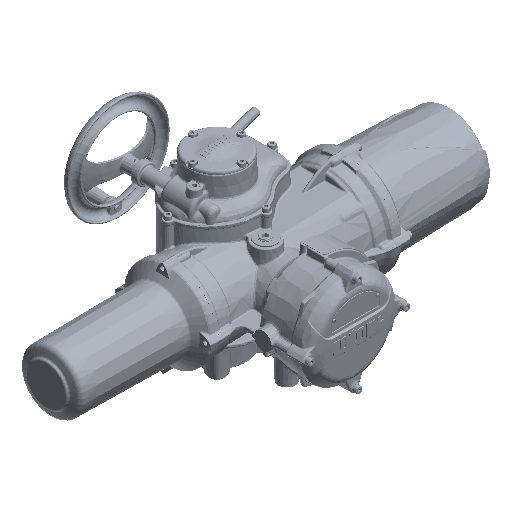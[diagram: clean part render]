
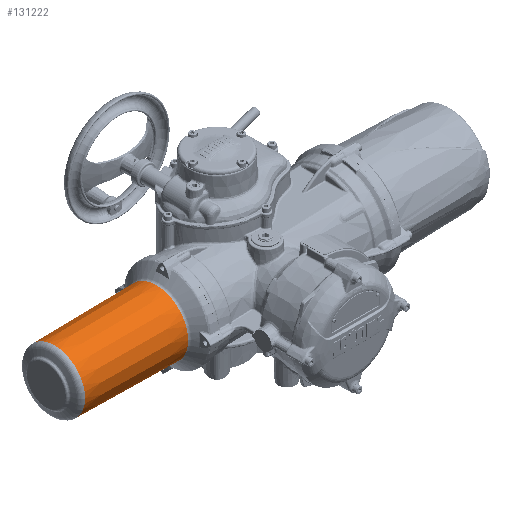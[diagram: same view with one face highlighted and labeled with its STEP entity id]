
A CAD part, isometric view. The second image highlights one B-rep face of the part: STEP entity #131222.
In plain terms, the highlighted conical face has half-angle 0.75 degrees and reference radius 65.5 mm.
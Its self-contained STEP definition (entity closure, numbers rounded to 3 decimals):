
#360=CONICAL_SURFACE('',#137518,65.5,0.013);
#11795=B_SPLINE_CURVE_WITH_KNOTS('',3,(#187019,#187020,#187021,#187022,
#187023,#187024,#187025,#187026,#187027,#187028,#187029,#187030,#187031,
#187032,#187033,#187034,#187035,#187036,#187037,#187038,#187039,#187040,
#187041,#187042,#187043,#187044,#187045,#187046,#187047,#187048),
 .UNSPECIFIED.,.T.,.F.,(1,1,1,1,1,1,1,1,1,1,1,1,1,1,1,1,1,1,1,1,1,1,1,1,
1,1,1,1,1,1,1,1,1,1),(-0.016,-0.013,-0.006,
0.,0.003,0.006,0.01,0.013,
0.016,0.019,0.022,0.026,
0.029,0.032,0.035,0.038,
0.042,0.045,0.051,0.058,
0.064,0.067,0.07,0.074,
0.077,0.08,0.083,0.086,
0.09,0.096,0.102,0.106,
0.109,0.112),.UNSPECIFIED.);
#20602=ORIENTED_EDGE('',*,*,#47623,.T.);
#20603=ORIENTED_EDGE('',*,*,#47622,.T.);
#20604=ORIENTED_EDGE('',*,*,#47621,.F.);
#47621=EDGE_CURVE('',#61320,#61320,#69488,.T.);
#47622=EDGE_CURVE('',#61321,#61321,#11795,.T.);
#47623=EDGE_CURVE('',#61322,#61322,#69489,.F.);
#61320=VERTEX_POINT('',#186922);
#61321=VERTEX_POINT('',#187049);
#61322=VERTEX_POINT('',#187052);
#69488=CIRCLE('',#137517,62.731);
#69489=CIRCLE('',#137519,65.464);
#74628=EDGE_LOOP('',(#20602));
#74629=EDGE_LOOP('',(#20603));
#74630=EDGE_LOOP('',(#20604));
#81192=FACE_BOUND('',#74628,.T.);
#81193=FACE_BOUND('',#74629,.T.);
#81194=FACE_BOUND('',#74630,.T.);
#131222=ADVANCED_FACE('',(#81192,#81193,#81194),#360,.T.);
#137517=AXIS2_PLACEMENT_3D('',#186921,#147615,#147616);
#137518=AXIS2_PLACEMENT_3D('',#187050,#147617,#147618);
#137519=AXIS2_PLACEMENT_3D('',#187051,#147619,#147620);
#147615=DIRECTION('',(-1.,0.,0.));
#147616=DIRECTION('',(0.,0.,1.));
#147617=DIRECTION('',(1.,0.,0.));
#147618=DIRECTION('',(0.,0.,-1.));
#147619=DIRECTION('',(1.,0.,0.));
#147620=DIRECTION('',(0.,0.,-1.));
#186921=CARTESIAN_POINT('',(-393.347,-60.,0.));
#186922=CARTESIAN_POINT('',(-393.347,-60.,62.731));
#187019=CARTESIAN_POINT('',(-261.185,-51.356,-63.957));
#187020=CARTESIAN_POINT('',(-265.153,-47.6,-63.222));
#187021=CARTESIAN_POINT('',(-268.938,-45.634,-62.74));
#187022=CARTESIAN_POINT('',(-272.024,-44.68,-62.47));
#187023=CARTESIAN_POINT('',(-275.207,-44.28,-62.326));
#187024=CARTESIAN_POINT('',(-278.455,-44.439,-62.323));
#187025=CARTESIAN_POINT('',(-281.574,-45.145,-62.455));
#187026=CARTESIAN_POINT('',(-284.565,-46.412,-62.706));
#187027=CARTESIAN_POINT('',(-287.218,-48.163,-63.03));
#187028=CARTESIAN_POINT('',(-289.536,-50.431,-63.388));
#187029=CARTESIAN_POINT('',(-291.318,-53.067,-63.712));
#187030=CARTESIAN_POINT('',(-292.536,-56.078,-63.957));
#187031=CARTESIAN_POINT('',(-293.057,-59.268,-64.067));
#187032=CARTESIAN_POINT('',(-292.86,-62.496,-64.025));
#187033=CARTESIAN_POINT('',(-291.946,-65.617,-63.836));
#187034=CARTESIAN_POINT('',(-289.876,-69.388,-63.44));
#187035=CARTESIAN_POINT('',(-285.928,-73.141,-62.81));
#187036=CARTESIAN_POINT('',(-279.883,-75.598,-62.296));
#187037=CARTESIAN_POINT('',(-274.446,-75.802,-62.317));
#187038=CARTESIAN_POINT('',(-270.242,-74.842,-62.61));
#187039=CARTESIAN_POINT('',(-267.3,-73.596,-62.936));
#187040=CARTESIAN_POINT('',(-264.607,-71.813,-63.335));
#187041=CARTESIAN_POINT('',(-262.339,-69.592,-63.745));
#187042=CARTESIAN_POINT('',(-260.523,-66.905,-64.121));
#187043=CARTESIAN_POINT('',(-259.331,-63.943,-64.39));
#187044=CARTESIAN_POINT('',(-258.799,-60.726,-64.516));
#187045=CARTESIAN_POINT('',(-259.068,-56.411,-64.452));
#187046=CARTESIAN_POINT('',(-261.185,-51.356,-63.957));
#187047=CARTESIAN_POINT('',(-265.153,-47.6,-63.222));
#187048=CARTESIAN_POINT('',(-268.938,-45.634,-62.74));
#187049=CARTESIAN_POINT('',(-266.15,-47.195,-63.111));
#187050=CARTESIAN_POINT('',(-181.857,-60.,0.));
#187051=CARTESIAN_POINT('',(-184.607,-60.,0.));
#187052=CARTESIAN_POINT('',(-184.607,-60.,-65.464));
